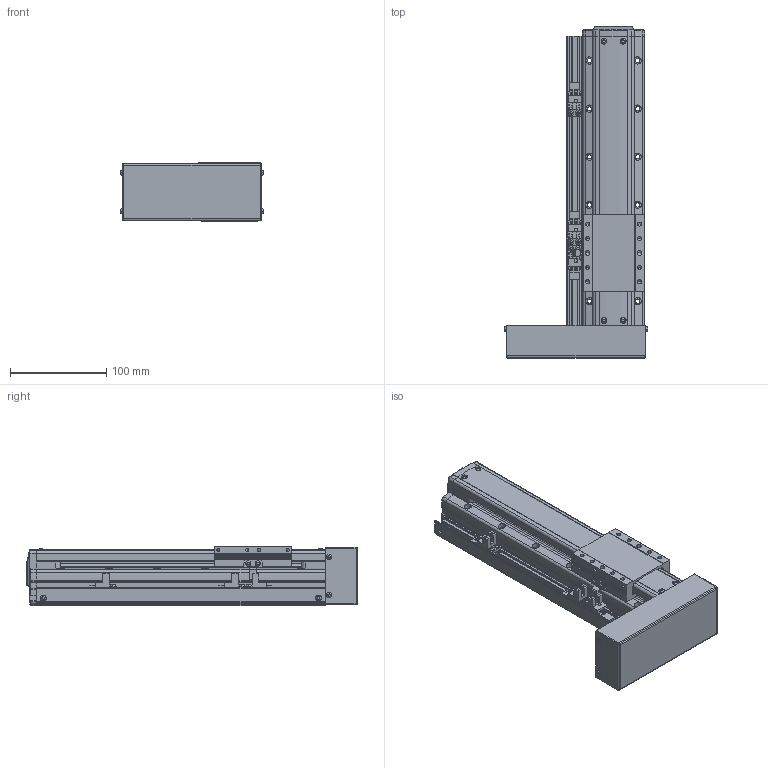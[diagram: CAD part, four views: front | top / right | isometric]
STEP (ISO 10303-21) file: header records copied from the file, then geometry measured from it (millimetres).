
FILE_DESCRIPTION(('STEP AP214'),'1');
FILE_NAME('Z:/Web/3D/PSA65/STP/PSA65-150 (3D)/PSA65ㅁㅁ-150PL+3SL.stp','2014-06-25T03:11:48',(' '),(' '),'Spatial InterOp 3D',' ',' ');
FILE_SCHEMA(('automotive_design'));
Length unit declared in the file: millimetre
Products named in the file (67): SLIDE; RRCV-PA060; 1; 2; 3; 4; 5; 6; 7; 8; 9; 10; 11; 12; 13; 14; 15; 16; 17; 18; 19; 20; 21; 22; 23; 24; 25; 26; 27; 28; 29; 30; 31; 스크루 : Round - M3.0 x 8.0; RN8 x 0.75; SHAFT-SAN65; BASE; 스크루 : Round - M3.0 x 6.0; BTCV-SAN65; BHCS M3 X 6L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
Bounding box: 149.13 x 344.8 x 62 mm (x, y, z)
Volume: 1288790.4 mm3; surface area: 226483 mm2
Topology: 67 solids, 67 shells, 2198 faces, 5787 edges, 3727 vertices
Faces by surface type: plane 1385, cylinder 547, cone 181, sphere 50, bspline 19, torus 16
Entity records: 87080 total; most frequent: CARTESIAN_POINT 13406, DIRECTION 11624, ORIENTED_EDGE 11358, EDGE_CURVE 5679, LINE 4054, VECTOR 4054, AXIS2_PLACEMENT_3D 3785, VERTEX_POINT 3727
